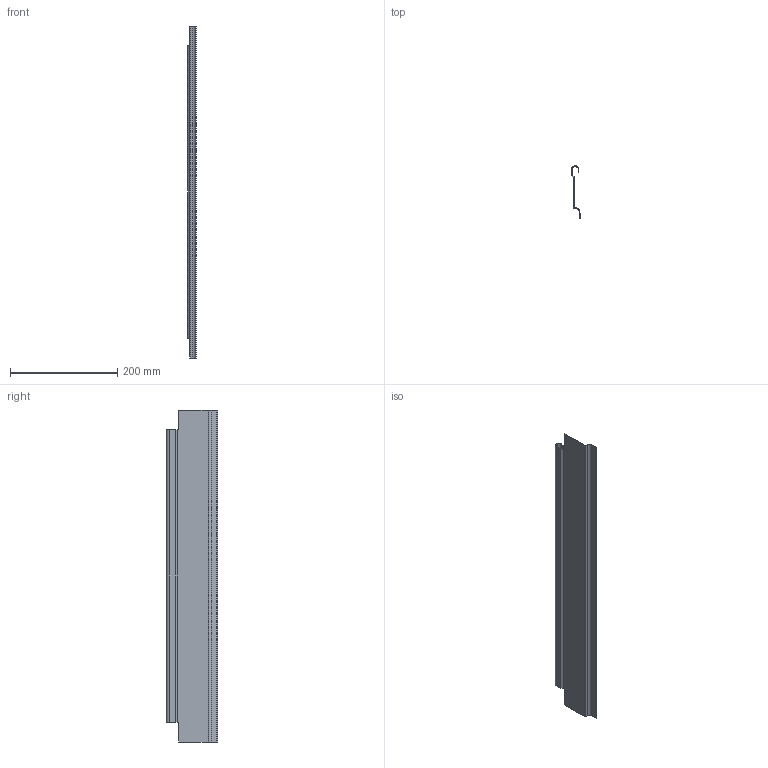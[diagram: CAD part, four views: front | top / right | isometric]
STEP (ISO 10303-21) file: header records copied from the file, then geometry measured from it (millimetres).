
FILE_DESCRIPTION (( 'STEP AP214' ), '1' );
FILE_NAME ('_Solowing NL650.step', '2010-07-14T13:31:59', ( 'grass' ), ( '' ), 'SwSTEP 2.0', 'SolidWorks 2010', '' );
FILE_SCHEMA (( 'AUTOMOTIVE_DESIGN' ));
Length unit declared in the file: millimetre
Products named in the file (1): _Solowing NL650
Bounding box: 16.3 x 96 x 618 mm (x, y, z)
Volume: 58671.1 mm3; surface area: 147864.8 mm2
Topology: 1 solids, 1 shells, 46 faces, 108 edges, 64 vertices
Faces by surface type: plane 36, cylinder 10
Entity records: 1314 total; most frequent: DIRECTION 222, CARTESIAN_POINT 219, ORIENTED_EDGE 216, EDGE_CURVE 108, VECTOR 88, LINE 88, AXIS2_PLACEMENT_3D 67, VERTEX_POINT 64
